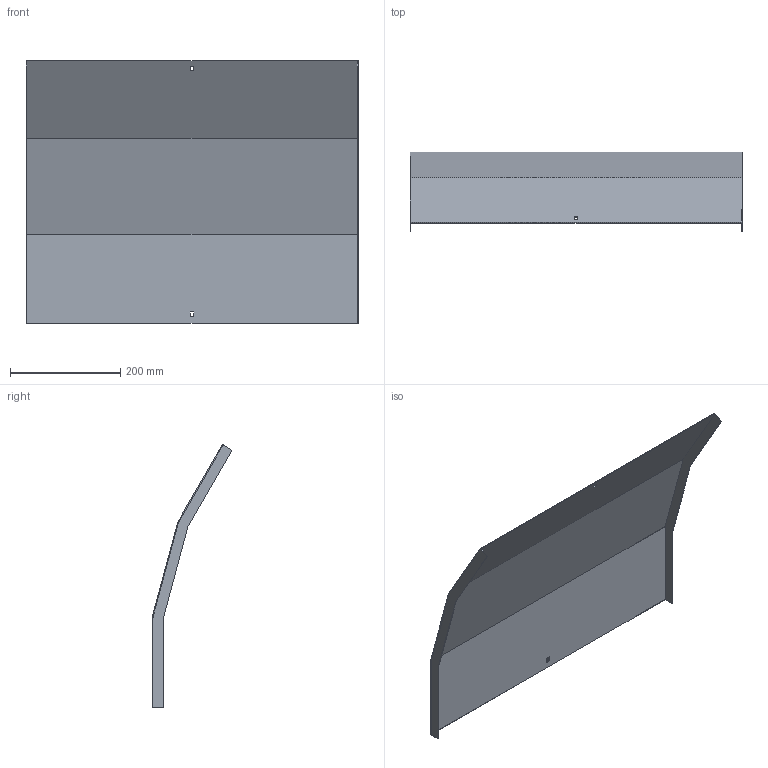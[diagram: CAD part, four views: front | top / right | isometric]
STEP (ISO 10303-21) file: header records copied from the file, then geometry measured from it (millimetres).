
FILE_DESCRIPTION (( 'STEP AP214' ), '1' );
FILE_NAME ('A2_35N3C600.step', '2025-02-21T10:30:21', ( '' ), ( '' ), 'SwSTEP 2.0', 'SolidWorks 2023', '' );
FILE_SCHEMA (( 'AUTOMOTIVE_DESIGN' ));
Length unit declared in the file: millimetre
Products named in the file (1): A2_35N3C600
Bounding box: 603 x 145.29 x 477.6 mm (x, y, z)
Volume: 484464 mm3; surface area: 649451.2 mm2
Topology: 1 solids, 1 shells, 26 faces, 72 edges, 48 vertices
Faces by surface type: plane 26
Entity records: 847 total; most frequent: CARTESIAN_POINT 147, ORIENTED_EDGE 144, DIRECTION 126, VECTOR 72, EDGE_CURVE 72, LINE 72, VERTEX_POINT 48, EDGE_LOOP 30
